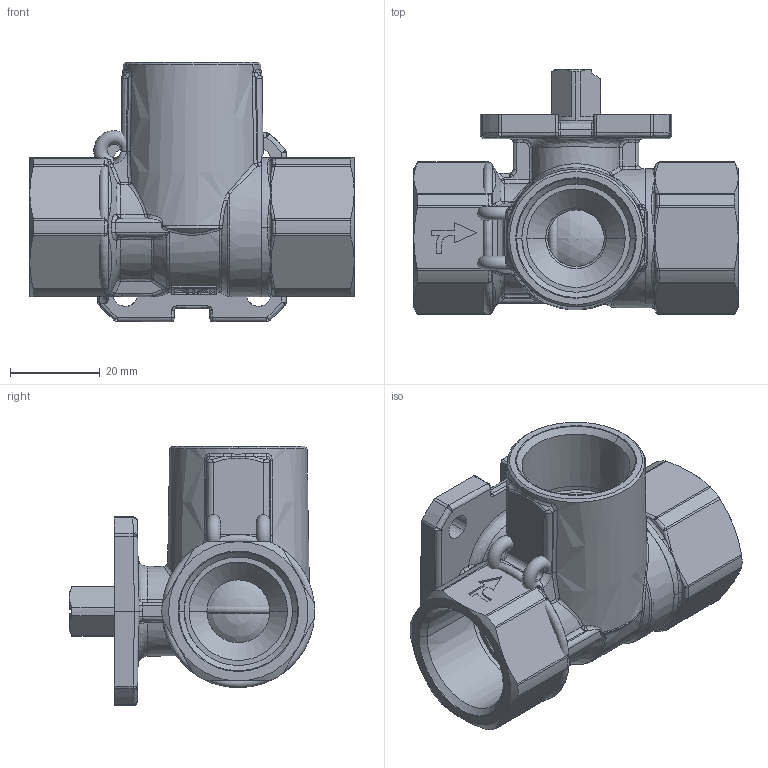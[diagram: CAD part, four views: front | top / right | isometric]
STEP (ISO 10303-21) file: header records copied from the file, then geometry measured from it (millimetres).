
FILE_DESCRIPTION((''),'2;1');
FILE_NAME('H980TX020_1369_ASM','2010-04-12T',('62marco'),(''),'PRO/ENGINEER BY PARAMETRIC TECHNOLOGY CORPORATION, 2008170','PRO/ENGINEER BY PARAMETRIC TECHNOLOGY CORPORATION, 2008170','');
FILE_SCHEMA(('CONFIG_CONTROL_DESIGN'));
Products named in the file (7): CC980T020_1219_SAUTER; CXKBTX015_1163; CXP980015_92; CINBSX015_155; CM98GF020_1176; CXH98M015_155; H980TX020_1369_ASM
Assembly tree (7 placements, depth 2):
  H980TX020_1369_ASM
    CC980T020_1219_SAUTER
    CXKBTX015_1163
    CXP980015_92
    CINBSX015_155
    CM98GF020_1176
    CXH98M015_155  x2
Bounding box: 72.2 x 54.6 x 57.7 mm (x, y, z)
Surface area: 49515.3 mm2 (no closed solid volume)
Topology: 0 solids, 0 shells, 1296 faces, 6589 edges, 6513 vertices
Faces by surface type: bspline 1176, torus 79, sphere 41
Entity records: 112330 total; most frequent: CARTESIAN_POINT 57034, DIRECTION 8310, TRIMMED_CURVE 7232, VECTOR 6418, LINE 6418, DEFINITIONAL_REPRESENTATION 6344, PCURVE 6344, COMPOSITE_CURVE_SEGMENT 6344
